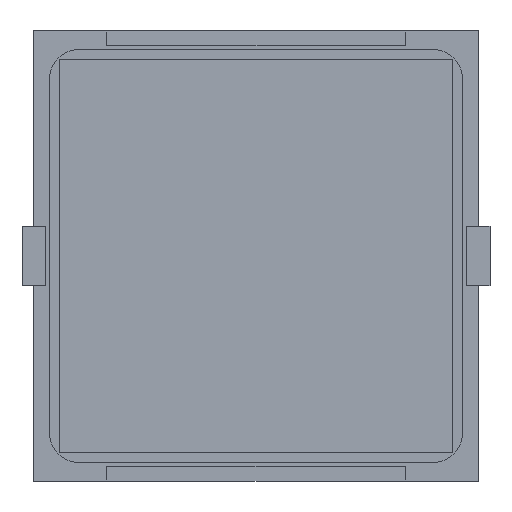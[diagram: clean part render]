
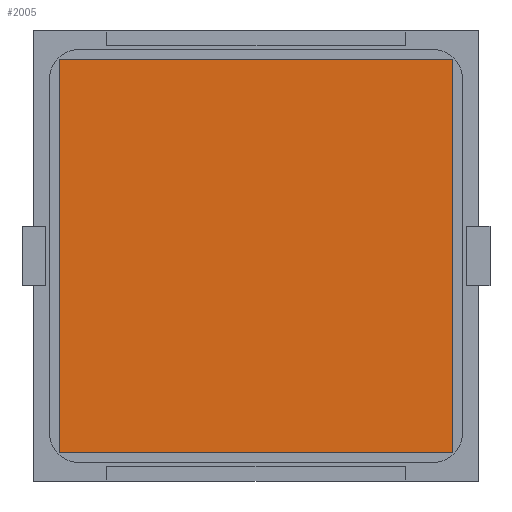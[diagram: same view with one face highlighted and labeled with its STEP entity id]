
A CAD part, front view. The second image highlights one B-rep face of the part: STEP entity #2005.
In plain terms, the highlighted planar face has unit normal (0, -1, 0).
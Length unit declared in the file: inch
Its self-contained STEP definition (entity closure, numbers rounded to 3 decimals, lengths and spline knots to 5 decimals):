
#337 = EDGE_CURVE ( 'NONE', #8999, #4837, #8001, .T. ) ;
#460 = PLANE ( 'NONE',  #8385 ) ;
#740 = DIRECTION ( 'NONE',  ( 0., 0., 1. ) ) ;
#1067 = DIRECTION ( 'NONE',  ( -1., 0., 0. ) ) ;
#1119 = LINE ( 'NONE', #10125, #3438 ) ;
#1297 = ORIENTED_EDGE ( 'NONE', *, *, #4235, .F. ) ;
#1768 = EDGE_CURVE ( 'NONE', #3971, #3522, #9587, .T. ) ;
#1976 = EDGE_CURVE ( 'NONE', #4837, #3971, #1119, .T. ) ;
#2005 = ADVANCED_FACE ( 'NONE', ( #10286 ), #460, .F. ) ;
#2197 = CARTESIAN_POINT ( 'NONE',  ( -0.64961, -0.005, -0.64961 ) ) ;
#2309 = DIRECTION ( 'NONE',  ( 1., 0., 0. ) ) ;
#2350 = DIRECTION ( 'NONE',  ( 0., 1., 0. ) ) ;
#3027 = VECTOR ( 'NONE', #7013, 39.37008 ) ;
#3438 = VECTOR ( 'NONE', #1067, 39.37008 ) ;
#3522 = VERTEX_POINT ( 'NONE', #7641 ) ;
#3971 = VERTEX_POINT ( 'NONE', #9053 ) ;
#4235 = EDGE_CURVE ( 'NONE', #3522, #8999, #10640, .T. ) ;
#4837 = VERTEX_POINT ( 'NONE', #5023 ) ;
#5017 = VECTOR ( 'NONE', #2309, 39.37008 ) ;
#5023 = CARTESIAN_POINT ( 'NONE',  ( 0.64961, -0.005, -0.64961 ) ) ;
#5288 = VECTOR ( 'NONE', #740, 39.37008 ) ;
#6298 = CARTESIAN_POINT ( 'NONE',  ( -0.64961, -0.005, 0.64961 ) ) ;
#6629 = ORIENTED_EDGE ( 'NONE', *, *, #1768, .F. ) ;
#7013 = DIRECTION ( 'NONE',  ( 0., 0., -1. ) ) ;
#7641 = CARTESIAN_POINT ( 'NONE',  ( -0.64961, -0.005, 0.64961 ) ) ;
#7924 = ORIENTED_EDGE ( 'NONE', *, *, #1976, .F. ) ;
#8001 = LINE ( 'NONE', #8775, #3027 ) ;
#8385 = AXIS2_PLACEMENT_3D ( 'NONE', #6298, #2350, #10623 ) ;
#8775 = CARTESIAN_POINT ( 'NONE',  ( 0.64961, -0.005, -0.64961 ) ) ;
#8991 = EDGE_LOOP ( 'NONE', ( #6629, #7924, #9754, #1297 ) ) ;
#8999 = VERTEX_POINT ( 'NONE', #9684 ) ;
#9053 = CARTESIAN_POINT ( 'NONE',  ( -0.64961, -0.005, -0.64961 ) ) ;
#9587 = LINE ( 'NONE', #2197, #5288 ) ;
#9684 = CARTESIAN_POINT ( 'NONE',  ( 0.64961, -0.005, 0.64961 ) ) ;
#9708 = CARTESIAN_POINT ( 'NONE',  ( -0.64961, -0.005, 0.64961 ) ) ;
#9754 = ORIENTED_EDGE ( 'NONE', *, *, #337, .F. ) ;
#10125 = CARTESIAN_POINT ( 'NONE',  ( -0.64961, -0.005, -0.64961 ) ) ;
#10286 = FACE_OUTER_BOUND ( 'NONE', #8991, .T. ) ;
#10623 = DIRECTION ( 'NONE',  ( 0., 0., 1. ) ) ;
#10640 = LINE ( 'NONE', #9708, #5017 ) ;
